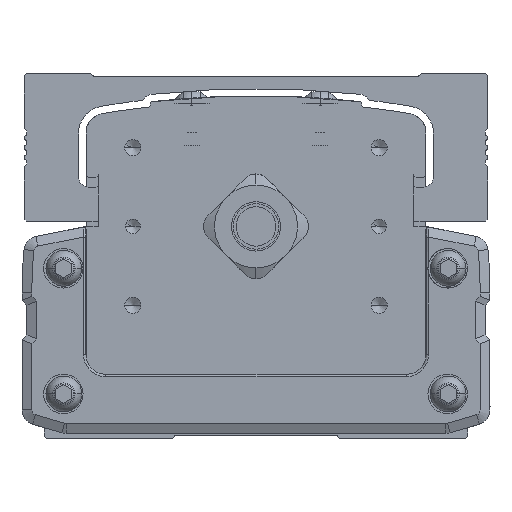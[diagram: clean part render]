
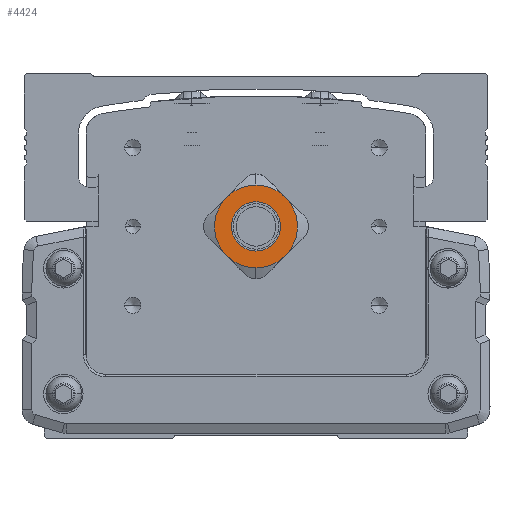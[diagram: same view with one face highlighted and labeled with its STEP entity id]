
A CAD part, front view. The second image highlights one B-rep face of the part: STEP entity #4424.
In plain terms, the highlighted planar face has unit normal (0, -1, 0).
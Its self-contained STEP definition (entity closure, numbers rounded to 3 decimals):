
#4424=ADVANCED_FACE('',(#9504,#9505),#9506,.F.);
#9504=FACE_OUTER_BOUND('',#16501,.T.);
#9505=FACE_BOUND('',#16502,.T.);
#9506=PLANE('',#16503);
#16501=EDGE_LOOP('',(#30246,#30247,#30248,#30249,#30250,#30251));
#16502=EDGE_LOOP('',(#30252,#30253));
#16503=AXIS2_PLACEMENT_3D('',#30254,#30255,#30256);
#30246=ORIENTED_EDGE('',*,*,#39959,.T.);
#30247=ORIENTED_EDGE('',*,*,#40316,.T.);
#30248=ORIENTED_EDGE('',*,*,#37223,.T.);
#30249=ORIENTED_EDGE('',*,*,#41188,.T.);
#30250=ORIENTED_EDGE('',*,*,#41189,.T.);
#30251=ORIENTED_EDGE('',*,*,#39946,.T.);
#30252=ORIENTED_EDGE('',*,*,#41190,.F.);
#30253=ORIENTED_EDGE('',*,*,#40656,.F.);
#30254=CARTESIAN_POINT('',(0.,-161.468,0.127));
#30255=DIRECTION('',(0.,1.0,0.));
#30256=DIRECTION('',(0.,0.,1.0));
#37223=EDGE_CURVE('',#45105,#45107,#45109,.T.);
#39946=EDGE_CURVE('',#49284,#43161,#49286,.T.);
#39959=EDGE_CURVE('',#43161,#49301,#49303,.T.);
#40316=EDGE_CURVE('',#49301,#45105,#49772,.T.);
#40656=EDGE_CURVE('',#50207,#50209,#50210,.T.);
#41188=EDGE_CURVE('',#45107,#45666,#50891,.T.);
#41189=EDGE_CURVE('',#45666,#49284,#50892,.T.);
#41190=EDGE_CURVE('',#50209,#50207,#50893,.T.);
#43161=VERTEX_POINT('',#53424);
#45105=VERTEX_POINT('',#56476);
#45107=VERTEX_POINT('',#56479);
#45109=CIRCLE('',#56492,8.413);
#45666=VERTEX_POINT('',#57273);
#49284=VERTEX_POINT('',#62822);
#49286=CIRCLE('',#62825,8.413);
#49301=VERTEX_POINT('',#62861);
#49303=CIRCLE('',#62874,8.413);
#49772=CIRCLE('',#63586,8.413);
#50207=VERTEX_POINT('',#64213);
#50209=VERTEX_POINT('',#64216);
#50210=CIRCLE('',#64217,4.625);
#50891=CIRCLE('',#65288,8.413);
#50892=CIRCLE('',#65289,8.413);
#50893=CIRCLE('',#65290,4.625);
#53424=CARTESIAN_POINT('',(5.949,-161.468,-5.949));
#56476=CARTESIAN_POINT('',(0.,-161.468,8.412));
#56479=CARTESIAN_POINT('',(-5.949,-161.468,5.949));
#56492=AXIS2_PLACEMENT_3D('',#69069,#69070,#69071);
#57273=CARTESIAN_POINT('',(-5.949,-161.468,-5.949));
#62822=CARTESIAN_POINT('',(0.,-161.468,-8.413));
#62825=AXIS2_PLACEMENT_3D('',#72178,#72179,#72180);
#62861=CARTESIAN_POINT('',(5.949,-161.468,5.949));
#62874=AXIS2_PLACEMENT_3D('',#72191,#72192,#72193);
#63586=AXIS2_PLACEMENT_3D('',#72552,#72553,#72554);
#64213=CARTESIAN_POINT('',(0.,-161.468,-4.625));
#64216=CARTESIAN_POINT('',(0.,-161.468,4.625));
#64217=AXIS2_PLACEMENT_3D('',#72961,#72962,#72963);
#65288=AXIS2_PLACEMENT_3D('',#73467,#73468,#73469);
#65289=AXIS2_PLACEMENT_3D('',#73470,#73471,#73472);
#65290=AXIS2_PLACEMENT_3D('',#73473,#73474,#73475);
#69069=CARTESIAN_POINT('',(0.,-161.468,0.));
#69070=DIRECTION('',(0.,-1.0,0.));
#69071=DIRECTION('',(0.,0.,1.0));
#72178=CARTESIAN_POINT('',(0.,-161.468,0.));
#72179=DIRECTION('',(0.,-1.0,0.));
#72180=DIRECTION('',(0.,0.,1.0));
#72191=CARTESIAN_POINT('',(0.,-161.468,0.));
#72192=DIRECTION('',(0.,-1.0,0.));
#72193=DIRECTION('',(0.,0.,1.0));
#72552=CARTESIAN_POINT('',(0.,-161.468,0.));
#72553=DIRECTION('',(0.,-1.0,0.));
#72554=DIRECTION('',(0.,0.,1.0));
#72961=CARTESIAN_POINT('',(0.,-161.468,0.));
#72962=DIRECTION('',(0.,-1.0,0.));
#72963=DIRECTION('',(0.,0.,-1.0));
#73467=CARTESIAN_POINT('',(0.,-161.468,0.));
#73468=DIRECTION('',(0.,-1.0,0.));
#73469=DIRECTION('',(0.,0.,1.0));
#73470=CARTESIAN_POINT('',(0.,-161.468,0.));
#73471=DIRECTION('',(0.,-1.0,0.));
#73472=DIRECTION('',(0.,0.,1.0));
#73473=CARTESIAN_POINT('',(0.,-161.468,0.));
#73474=DIRECTION('',(0.,-1.0,0.));
#73475=DIRECTION('',(0.,0.,-1.0));
